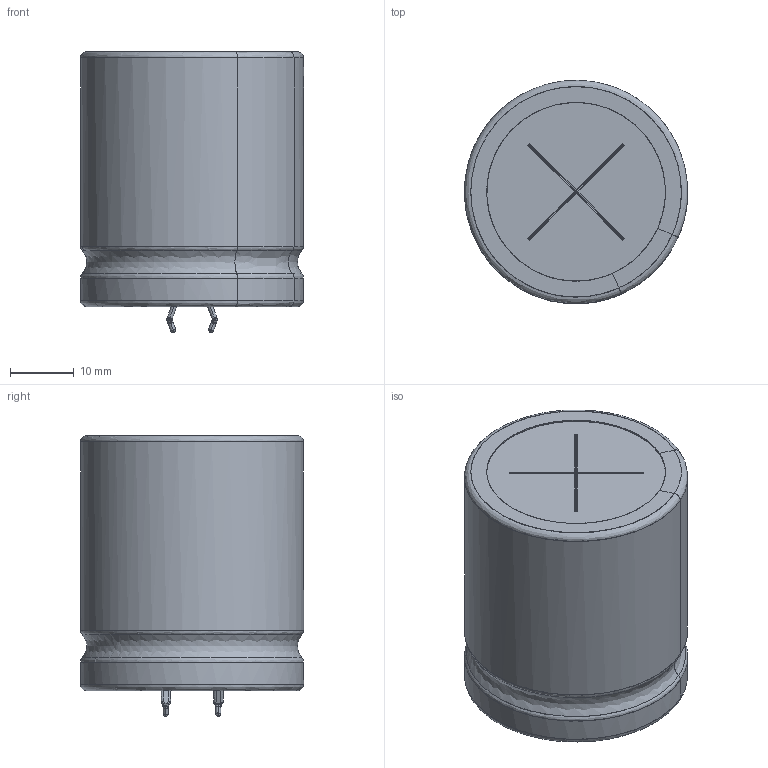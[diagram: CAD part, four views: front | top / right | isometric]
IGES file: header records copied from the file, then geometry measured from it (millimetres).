
Start section: JAMA-IS VERSION  1.0
Bounding box: 34.97 x 34.97 x 44.02 mm (x, y, z)
Surface area: 16365.4 mm2 (no closed solid volume)
Topology: 0 solids, 0 shells, 208 faces, 2354 edges, 2318 vertices
Faces by surface type: bspline 208
